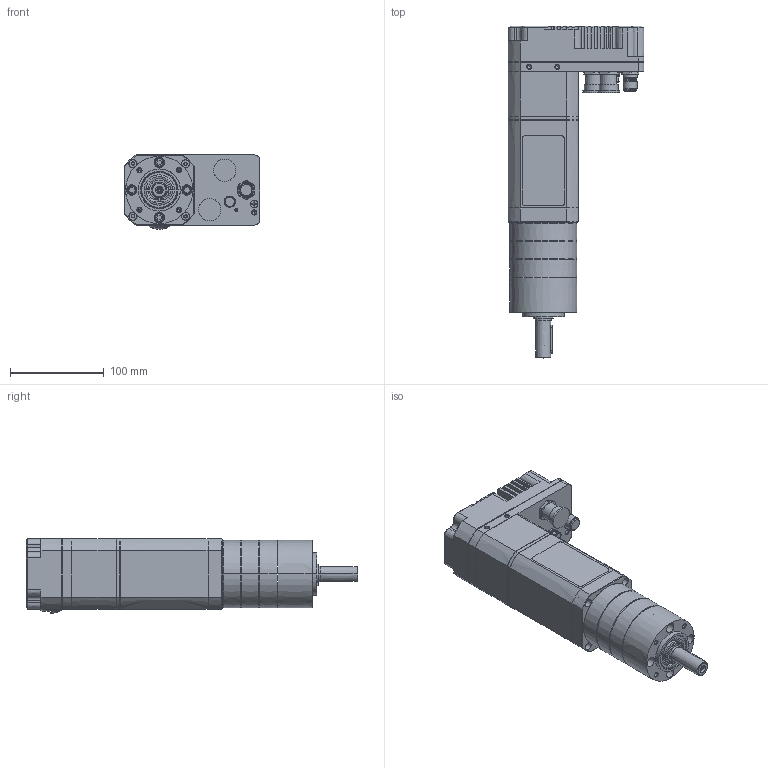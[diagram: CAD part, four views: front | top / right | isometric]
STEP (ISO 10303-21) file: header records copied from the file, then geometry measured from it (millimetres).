
FILE_DESCRIPTION((''),'2;1');
FILE_NAME('8036D1_3STAGES','2018-09-18T',('alecma1'),('CROUZET-AUTOMATISMES'),'CREO PARAMETRIC BY PTC INC, 2017170','CREO PARAMETRIC BY PTC INC, 2017170','');
FILE_SCHEMA(('AP203_CONFIGURATION_CONTROLLED_3D_DESIGN_OF_MECHANICAL_PARTS_AND_ASSEMBLIES_MIM_LF { 1 0 10303 403 2 1 2 }'));
Products named in the file (1): 8036D1_3STAGES
Bounding box: 145 x 354.95 x 79.7 mm (x, y, z)
Surface area: 158034.4 mm2 (no closed solid volume)
Topology: 0 solids, 0 shells, 769 faces, 4035 edges, 3969 vertices
Faces by surface type: bspline 717, torus 48, sphere 4
Entity records: 76337 total; most frequent: CARTESIAN_POINT 33566, DIRECTION 6230, TRIMMED_CURVE 5212, VECTOR 4323, LINE 4323, DEFINITIONAL_REPRESENTATION 3940, PCURVE 3940, COMPOSITE_CURVE_SEGMENT 3940
